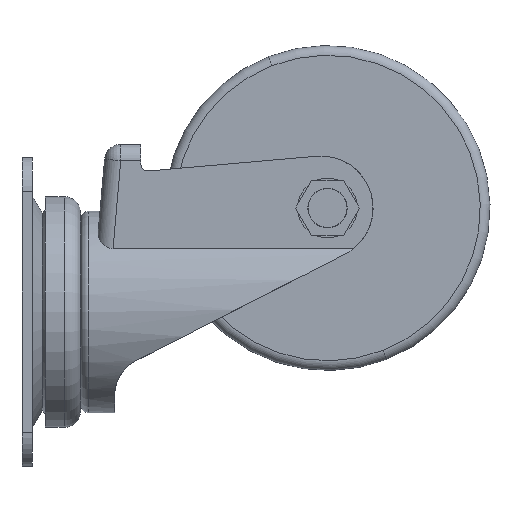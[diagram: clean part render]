
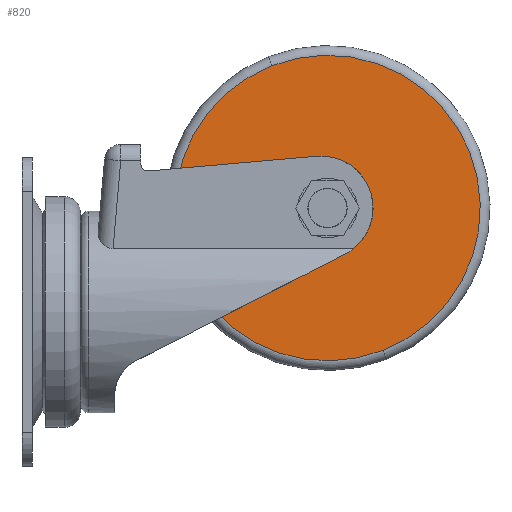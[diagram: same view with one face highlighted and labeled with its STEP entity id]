
A CAD part, left-side view. The second image highlights one B-rep face of the part: STEP entity #820.
In plain terms, the highlighted planar face has unit normal (-1, 0, 0).
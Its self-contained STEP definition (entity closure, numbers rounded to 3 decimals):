
#292 = CARTESIAN_POINT ( 'NONE',  ( -16., 0., 0. ) ) ;
#309 = CARTESIAN_POINT ( 'NONE',  ( -16., 0., 47. ) ) ;
#444 = CARTESIAN_POINT ( 'NONE',  ( -16., 0., 0. ) ) ;
#580 = DIRECTION ( 'NONE',  ( 1., 0., 0. ) ) ;
#584 = VERTEX_POINT ( 'NONE', #1318 ) ;
#812 = AXIS2_PLACEMENT_3D ( 'NONE', #3477, #2890, #3206 ) ;
#820 = ADVANCED_FACE ( 'NONE', ( #3687, #3399 ), #1345, .F. ) ;
#898 = DIRECTION ( 'NONE',  ( 0., 0., -1. ) ) ;
#905 = EDGE_LOOP ( 'NONE', ( #3219, #1495 ) ) ;
#972 = DIRECTION ( 'NONE',  ( 1., 0., 0. ) ) ;
#988 = CARTESIAN_POINT ( 'NONE',  ( -16., 0., 6.25 ) ) ;
#1114 = VERTEX_POINT ( 'NONE', #988 ) ;
#1299 = EDGE_CURVE ( 'NONE', #1947, #584, #3312, .T. ) ;
#1318 = CARTESIAN_POINT ( 'NONE',  ( -16., 0., -47. ) ) ;
#1345 = PLANE ( 'NONE',  #2011 ) ;
#1363 = DIRECTION ( 'NONE',  ( 0., 0., -1. ) ) ;
#1495 = ORIENTED_EDGE ( 'NONE', *, *, #3503, .T. ) ;
#1531 = EDGE_CURVE ( 'NONE', #3496, #1114, #3738, .T. ) ;
#1737 = ORIENTED_EDGE ( 'NONE', *, *, #1299, .T. ) ;
#1749 = AXIS2_PLACEMENT_3D ( 'NONE', #3512, #1973, #2707 ) ;
#1947 = VERTEX_POINT ( 'NONE', #309 ) ;
#1973 = DIRECTION ( 'NONE',  ( -1., 0., 0. ) ) ;
#2011 = AXIS2_PLACEMENT_3D ( 'NONE', #292, #972, #2876 ) ;
#2087 = CIRCLE ( 'NONE', #3685, 6.25 ) ;
#2232 = EDGE_CURVE ( 'NONE', #584, #1947, #2402, .T. ) ;
#2323 = CARTESIAN_POINT ( 'NONE',  ( -16., 0., -6.25 ) ) ;
#2402 = CIRCLE ( 'NONE', #1749, 47. ) ;
#2707 = DIRECTION ( 'NONE',  ( 0., 0., -1. ) ) ;
#2876 = DIRECTION ( 'NONE',  ( 0., 0., -1. ) ) ;
#2890 = DIRECTION ( 'NONE',  ( -1., 0., 0. ) ) ;
#3124 = AXIS2_PLACEMENT_3D ( 'NONE', #3889, #580, #898 ) ;
#3206 = DIRECTION ( 'NONE',  ( 0., 0., -1. ) ) ;
#3219 = ORIENTED_EDGE ( 'NONE', *, *, #1531, .T. ) ;
#3239 = ORIENTED_EDGE ( 'NONE', *, *, #2232, .T. ) ;
#3312 = CIRCLE ( 'NONE', #812, 47. ) ;
#3399 = FACE_OUTER_BOUND ( 'NONE', #3707, .T. ) ;
#3477 = CARTESIAN_POINT ( 'NONE',  ( -16., 0., 0. ) ) ;
#3496 = VERTEX_POINT ( 'NONE', #2323 ) ;
#3503 = EDGE_CURVE ( 'NONE', #1114, #3496, #2087, .T. ) ;
#3512 = CARTESIAN_POINT ( 'NONE',  ( -16., 0., 0. ) ) ;
#3685 = AXIS2_PLACEMENT_3D ( 'NONE', #444, #3801, #1363 ) ;
#3687 = FACE_BOUND ( 'NONE', #905, .T. ) ;
#3707 = EDGE_LOOP ( 'NONE', ( #3239, #1737 ) ) ;
#3738 = CIRCLE ( 'NONE', #3124, 6.25 ) ;
#3801 = DIRECTION ( 'NONE',  ( 1., 0., 0. ) ) ;
#3889 = CARTESIAN_POINT ( 'NONE',  ( -16., 0., 0. ) ) ;
